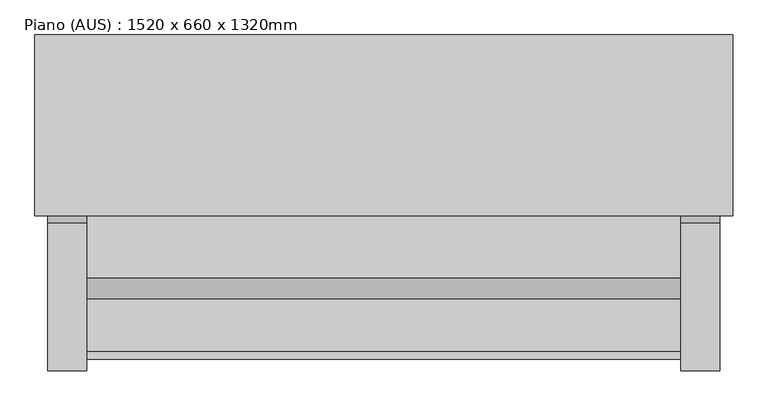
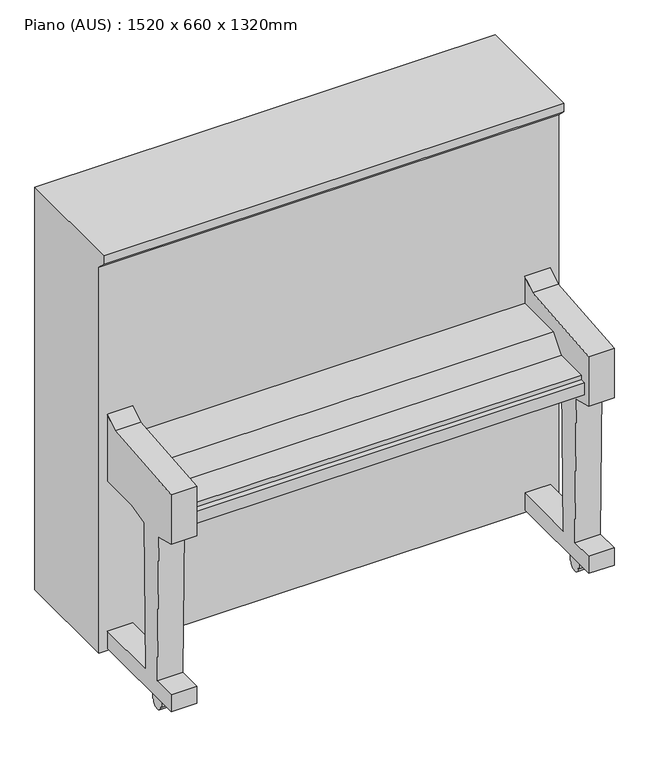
"""IFC4 building model written with IfcOpenShell, lengths in millimetres: furniture geometry, Piano (AUS) : 1520 x 660 x 1320mm."""

from ifc_helpers import new_model, si_unit, point, frame, frame_2d, origin, place, context, project, spatial, polyline, circle_curve, trimmed, segment, composite_curve, outline, extrude, source, transform, mapped, element, save


def piano_aus_1520_x_660_x_1320mm_940d0a22(model_context):
    return source(origin(), model_context, "Body", "SweptSolid", [
        extrude(outline(composite_curve([segment(polyline([(-567.8537238, 58.4233062), (-558.4, 58.4233062), (-549.041203, 58.4233062), (-549.041203, 38.2794625), (-535.8400261, 38.2794625), (-535.8400261, 19.1397313), (-539.2602687, 19.1397313)]), True, "CONTINUOUS"), segment(trimmed(circle_curve(frame_2d((-558.4, 19.1397313)), 19.1397313), [point((-539.2602687, 19.1397313))], [point((-577.5397313, 19.1397313))], False, "CARTESIAN"), True, "CONTINUOUS"), segment(polyline([(-577.5397313, 19.1397313), (-580.9599739, 19.1397313), (-580.9599739, 38.2794625), (-567.8537238, 38.2794625), (-567.8537238, 58.4233062)]), True, "CONTINUOUS")], self_intersect=False)), frame((-865.8044137, 0.0, 0.0), z_axis=(1.0, 0.0, 0.0), x_axis=(0.0, 1.0, 0.0)), (0.0, 0.0, 1.0), 38.9347436),
        extrude(outline(composite_curve([segment(polyline([(-60.2537238, 50.8), (-50.8, 50.8), (-41.441203, 50.8), (-41.441203, 38.2794625), (-28.2400261, 38.2794625), (-28.2400261, 19.1397313), (-31.6602687, 19.1397313)]), True, "CONTINUOUS"), segment(trimmed(circle_curve(frame_2d((-50.8, 19.1397313)), 19.1397313), [point((-31.6602687, 19.1397313))], [point((-69.9397313, 19.1397313))], False, "CARTESIAN"), True, "CONTINUOUS"), segment(polyline([(-69.9397313, 19.1397313), (-73.3599739, 19.1397313), (-73.3599739, 38.2794625), (-60.2537238, 38.2794625), (-60.2537238, 50.8)]), True, "CONTINUOUS")], self_intersect=False)), frame((-865.8044137, 0.0, 0.0), z_axis=(1.0, 0.0, 0.0), x_axis=(0.0, 1.0, 0.0)), (0.0, 0.0, 1.0), 38.9347436),
        extrude(outline(composite_curve([segment(polyline([(-60.2537238, 50.8), (-50.8, 50.8), (-41.441203, 50.8), (-41.441203, 38.2794625), (-28.2400261, 38.2794625), (-28.2400261, 19.1397313), (-31.6602687, 19.1397313)]), True, "CONTINUOUS"), segment(trimmed(circle_curve(frame_2d((-50.8, 19.1397313)), 19.1397313), [point((-31.6602687, 19.1397313))], [point((-69.9397313, 19.1397313))], False, "CARTESIAN"), True, "CONTINUOUS"), segment(polyline([(-69.9397313, 19.1397313), (-73.3599739, 19.1397313), (-73.3599739, 38.2794625), (-60.2537238, 38.2794625), (-60.2537238, 50.8)]), True, "CONTINUOUS")], self_intersect=False)), frame((378.1307138, 0.0, 0.0), z_axis=(1.0, 0.0, 0.0), x_axis=(0.0, 1.0, 0.0)), (0.0, 0.0, 1.0), 38.1),
        extrude(outline(composite_curve([segment(polyline([(-568.0394097, 58.4233062), (-558.5856858, 58.4233062), (-549.2268889, 58.4233062), (-549.2268889, 38.2794625), (-536.025712, 38.2794625), (-536.025712, 19.1397313), (-539.4459546, 19.1397313)]), True, "CONTINUOUS"), segment(trimmed(circle_curve(frame_2d((-558.5856858, 19.1397313)), 19.1397313), [point((-539.4459546, 19.1397313))], [point((-577.7254171, 19.1397313))], False, "CARTESIAN"), True, "CONTINUOUS"), segment(polyline([(-577.7254171, 19.1397313), (-581.1456597, 19.1397313), (-581.1456597, 38.2794625), (-568.0394097, 38.2794625), (-568.0394097, 58.4233062)]), True, "CONTINUOUS")], self_intersect=False)), frame((378.1307138, 0.0, 0.0), z_axis=(1.0, 0.0, 0.0), x_axis=(0.0, 1.0, 0.0)), (0.0, 0.0, 1.0), 38.1),
        extrude(outline(polyline([(-330.0, 607.3294027), (-637.0305788, 607.3294027), (-637.0305788, 645.6946902), (-621.0450423, 645.6946902), (-621.0450423, 660.0911883), (-518.7489489, 660.0911883), (-477.1752142, 709.636836), (-330.0, 709.636836), (-330.0, 607.3294027)])), frame((-806.815625, 0.0, 0.0), z_axis=(1.0, 0.0, 0.0), x_axis=(0.0, 1.0, 0.0)), (0.0, 0.0, 1.0), 1168.4),
        extrude(outline(polyline([(-369.8060278, 767.593357), (-330.0, 795.7332541), (-330.0, 586.0464042), (-457.1713717, 586.0464042), (-520.7830624, 569.001703), (-528.757546, 112.1438465), (-330.0, 112.1438465), (-330.0, 58.4233062), (-660.0, 58.4233062), (-660.0, 112.1438465), (-588.4138257, 112.1438465), (-596.3883092, 569.001703), (-660.0, 586.0464042), (-660.0, 742.1871765), (-369.8060278, 767.593357)])), frame((361.584375, 0.0, 0.0), z_axis=(1.0, 0.0, 0.0), x_axis=(0.0, 1.0, 0.0)), (0.0, 0.0, 1.0), 76.2),
        extrude(outline(polyline([(-369.8060278, 767.593357), (-330.0, 795.7332541), (-330.0, 586.0464042), (-457.1713717, 586.0464042), (-520.7830624, 569.001703), (-528.757546, 112.1438465), (-330.0, 112.1438465), (-330.0, 58.4233062), (-660.0, 58.4233062), (-660.0, 112.1438465), (-588.4138257, 112.1438465), (-596.3883092, 569.001703), (-660.0, 586.0464042), (-660.0, 742.1871765), (-369.8060278, 767.593357)])), frame((-883.015625, 0.0, 0.0), z_axis=(1.0, 0.0, 0.0), x_axis=(0.0, 1.0, 0.0)), (0.0, 0.0, 1.0), 76.2),
        extrude(outline(polyline([(-330.0, 50.8), (-330.0, 1268.1129735), (-355.0229623, 1293.1359358), (-355.0229623, 1320.0), (0.0, 1320.0), (0.0, 50.8), (-330.0, 50.8)])), frame((-908.415625, 0.0, 0.0), z_axis=(1.0, 0.0, 0.0), x_axis=(0.0, 1.0, 0.0)), (0.0, 0.0, 1.0), 1371.6),
    ])


if __name__ == "__main__":
    model = new_model("IFC4")
    model_context = context("Model", 3, world=origin())
    ifc_project = project(units=[si_unit("LENGTHUNIT", "METRE", prefix="MILLI")], contexts=[model_context])
    site = spatial("IfcSite", under=ifc_project)
    building = spatial("IfcBuilding", under=site)
    placement = place(None, origin())
    piano_aus_1520_x_660_x_1320mm_shape = piano_aus_1520_x_660_x_1320mm_940d0a22(model_context)
    element("IfcFurniture", 1, ObjectType="Piano (AUS) : 1520 x 660 x 1320mm", at=placement, inside=building, context=model_context, shape_type="MappedRepresentation", body=[
        mapped(piano_aus_1520_x_660_x_1320mm_shape, transform((0.0, 0.0, 0.0), x_axis=(1.0, 0.0, 0.0), y_axis=(0.0, 1.0, 0.0), z_axis=(0.0, 0.0, 1.0))),
    ])
    save(model, "model.ifc")
